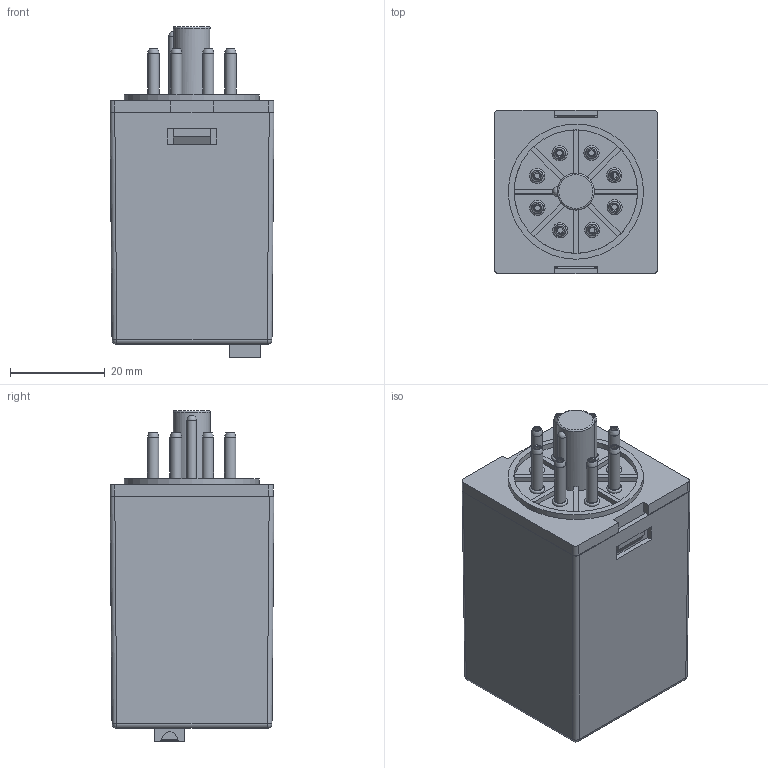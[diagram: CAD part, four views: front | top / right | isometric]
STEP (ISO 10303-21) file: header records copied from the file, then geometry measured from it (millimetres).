
FILE_DESCRIPTION((''),'2; 1');
FILE_NAME('','2026-03-27T11:06:55',(''),(''),'CST STEP Exporter V1.0','Unknown','');
FILE_SCHEMA(('CONFIG_CONTROL_DESIGN'));
Length unit declared in the file: metre
Assembly tree (14 placements, depth 2):
  (unnamed)
    (unnamed)
    (unnamed)
    (unnamed)
    (unnamed)
    (unnamed)
    (unnamed)
    (unnamed)
    (unnamed)
    (unnamed)
    (unnamed)
    (unnamed)
    (unnamed)
    (unnamed)
    (unnamed)
Bounding box: 34.55 x 34.55 x 69.73 mm (x, y, z)
Surface area: 25263.6 mm2 (no closed solid volume)
Topology: 0 solids, 14 shells, 217 faces, 612 edges, 406 vertices
Faces by surface type: plane 127, cylinder 44, torus 33, cone 8, sphere 5
Full cylindrical faces by diameter (mm): 1.85 x3, 2.35 x8, 7.8 x1, 26 x1, 28.5 x1
Entity records: 8496 total; most frequent: CARTESIAN_POINT 1163, DIRECTION 1139, ORIENTED_EDGE 964, EDGE_CURVE 550, VERTEX_POINT 404, AXIS2_PLACEMENT_3D 391, VECTOR 357, LINE 357
